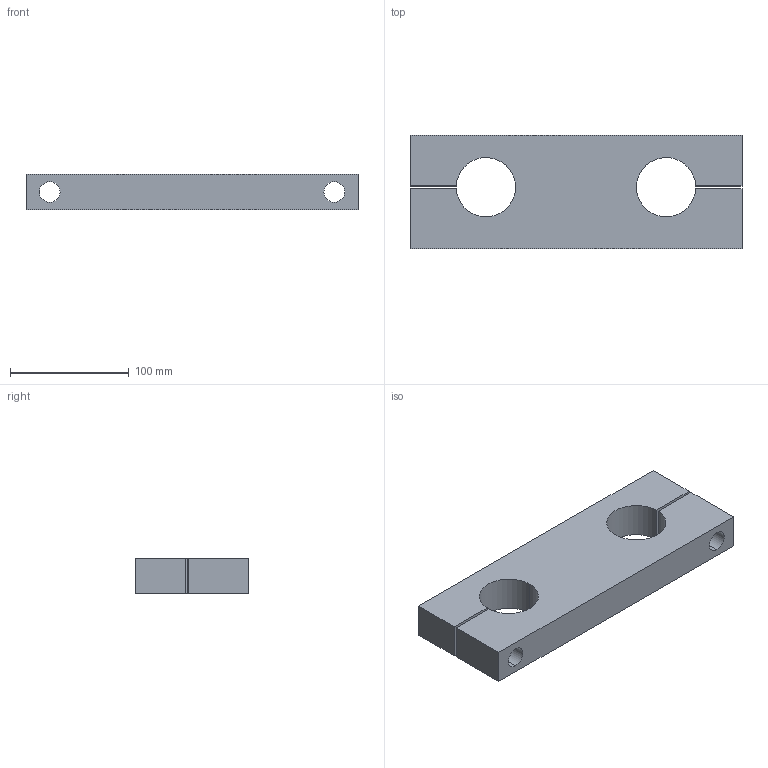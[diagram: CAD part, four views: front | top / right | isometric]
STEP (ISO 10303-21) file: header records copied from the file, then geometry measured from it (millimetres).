
FILE_DESCRIPTION (( 'STEP AP214' ), '1' );
FILE_NAME ('KTA-50.step', '2020-03-04T13:38:11', ( '' ), ( '' ), 'SwSTEP 2.0', 'SolidWorks 2019', '' );
FILE_SCHEMA (( 'AUTOMOTIVE_DESIGN' ));
Length unit declared in the file: millimetre
Products named in the file (1): KTA-50
Bounding box: 280 x 96 x 30 mm (x, y, z)
Volume: 626197.3 mm3; surface area: 91514.8 mm2
Topology: 1 solids, 1 shells, 35 faces, 89 edges, 57 vertices
Faces by surface type: cylinder 17, plane 14, cone 4
Entity records: 1103 total; most frequent: DIRECTION 195, CARTESIAN_POINT 180, ORIENTED_EDGE 174, EDGE_CURVE 87, AXIS2_PLACEMENT_3D 72, VERTEX_POINT 57, VECTOR 51, LINE 51
